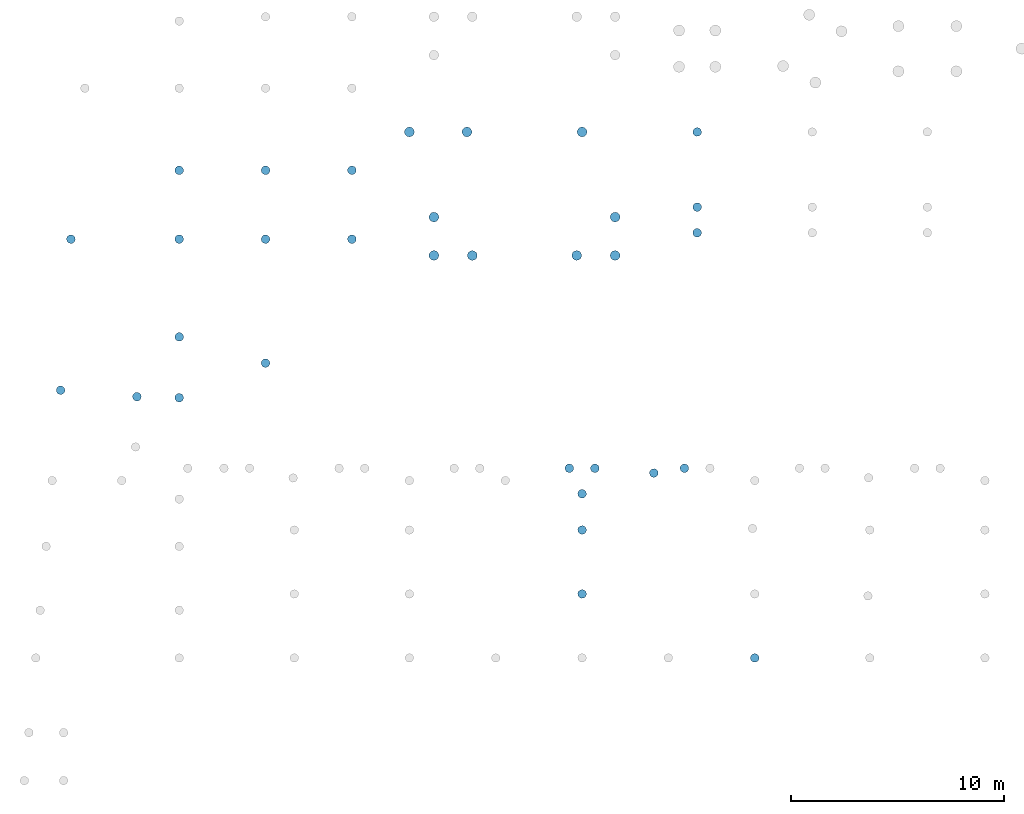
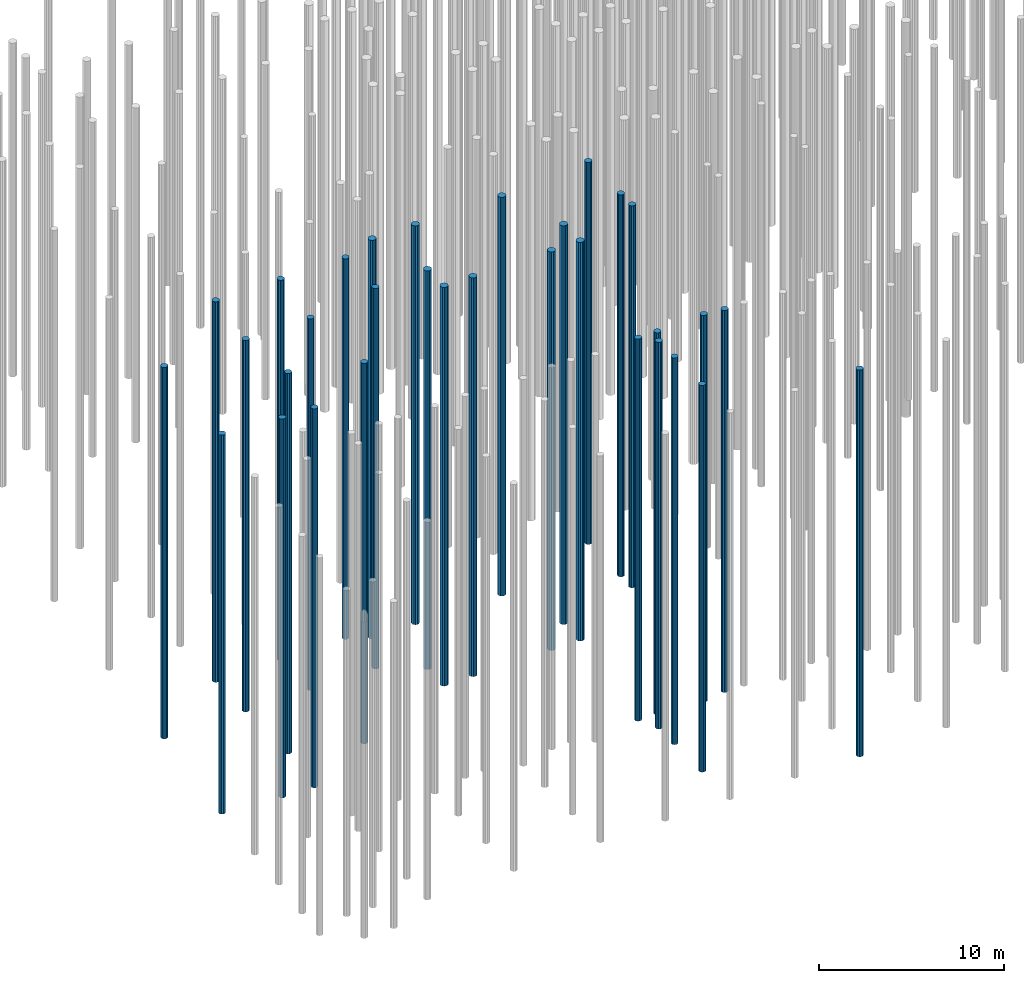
# One storey, part 2 of 20: 32 piles.
"""IFC2X3 building model written with IfcOpenShell, lengths in millimetres."""

from ifc_helpers import new_model, entity, si_unit, converted_unit, derived_unit, direction, frame, origin, place, context, subcontext, project, spatial, polyline, outline, extrude, material, element, save


model = new_model("IFC2X3")

# Units and contexts
model_context = context("Model", 3, precision=0.01, world=origin(), true_north=direction((6.12303176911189e-17, 1.0)))
body_context = subcontext(model_context, "Body", "Model", "MODEL_VIEW")
ifc_project = project(units=[si_unit("LENGTHUNIT", "METRE", prefix="MILLI"), si_unit("AREAUNIT", "SQUARE_METRE"), si_unit("VOLUMEUNIT", "CUBIC_METRE"), converted_unit("PLANEANGLEUNIT", "DEGREE", entity("IfcRatioMeasure", 0.0174532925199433), si_unit("PLANEANGLEUNIT", "RADIAN"), dimensions=[0, 0, 0, 0, 0, 0, 0]), si_unit("MASSUNIT", "GRAM", prefix="KILO"), derived_unit("MASSDENSITYUNIT", [(si_unit("MASSUNIT", "GRAM", prefix="KILO"), 1), (si_unit("LENGTHUNIT", "METRE"), -3)]), si_unit("TIMEUNIT", "SECOND"), si_unit("FREQUENCYUNIT", "HERTZ"), si_unit("THERMODYNAMICTEMPERATUREUNIT", "DEGREE_CELSIUS"), derived_unit("THERMALTRANSMITTANCEUNIT", [(si_unit("MASSUNIT", "GRAM", prefix="KILO"), 1), (si_unit("THERMODYNAMICTEMPERATUREUNIT", "KELVIN"), -1), (si_unit("TIMEUNIT", "SECOND"), -3)]), derived_unit("VOLUMETRICFLOWRATEUNIT", [(si_unit("LENGTHUNIT", "METRE"), 3), (si_unit("TIMEUNIT", "SECOND"), -1)]), si_unit("ELECTRICCURRENTUNIT", "AMPERE"), si_unit("ELECTRICVOLTAGEUNIT", "VOLT"), si_unit("POWERUNIT", "WATT"), si_unit("FORCEUNIT", "NEWTON", prefix="KILO"), si_unit("ILLUMINANCEUNIT", "LUX"), si_unit("LUMINOUSFLUXUNIT", "LUMEN"), si_unit("LUMINOUSINTENSITYUNIT", "CANDELA"), derived_unit("USERDEFINED", [(si_unit("MASSUNIT", "GRAM", prefix="KILO"), -1), (si_unit("LENGTHUNIT", "METRE"), -2), (si_unit("TIMEUNIT", "SECOND"), 3), (si_unit("LUMINOUSFLUXUNIT", "LUMEN"), 1)]), derived_unit("LINEARVELOCITYUNIT", [(si_unit("LENGTHUNIT", "METRE"), 1), (si_unit("TIMEUNIT", "SECOND"), -1)]), si_unit("PRESSUREUNIT", "PASCAL"), derived_unit("USERDEFINED", [(si_unit("LENGTHUNIT", "METRE"), -2), (si_unit("MASSUNIT", "GRAM", prefix="KILO"), 1), (si_unit("TIMEUNIT", "SECOND"), -2)])], contexts=[model_context])

# Site, building, storey
site_placement = place(None, origin())
site = spatial("IfcSite", under=ifc_project, at=site_placement, Name="Default", CompositionType="ELEMENT")
building_placement = place(site_placement, origin())
building = spatial("IfcBuilding", under=site, at=building_placement, Name="niet gebruiken", CompositionType="ELEMENT")
storey_placement = place(building_placement, frame((0.0, 0.0, -4000.0)))
storey = spatial("IfcBuildingStorey", under=building, at=storey_placement, Name="Level t.b.v. palenplan", CompositionType="ELEMENT", Elevation=-4000.0)

# Piles
ifc_material = material(Name="NLRS_f2_beton ihwg")
pile_1_placement = place(storey_placement, origin())
element("IfcPile", 1, at=pile_1_placement, inside=storey, material=ifc_material, Name="NLRS_17.12_SFO_TLB_funderingspaal grondverdringend_gen:Fundex_r410/500", ObjectType="NLRS_17.12_SFO_TLB_funderingspaal grondverdringend_gen:Fundex_r410/500", context=body_context, shape_type="SweptSolid", body=[
    extrude(outline(polyline([(-49.0597111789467, -199.043072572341), (49.0597111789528, -199.043072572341), (135.940144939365, -153.444703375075), (191.678329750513, -72.6940018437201), (203.505319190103, 24.7100194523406), (168.711692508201, 116.453273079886), (95.2682502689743, 181.518485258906), (49.0597111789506, 199.043072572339), (-49.0597111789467, 199.043072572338), (-135.940144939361, 153.444703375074), (-191.678329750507, 72.694001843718), (-203.505319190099, -24.7100194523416), (-168.711692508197, -116.453273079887), (-95.2682502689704, -181.518485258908), (-49.0597111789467, -199.043072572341)])), frame((2535.0, 12861.0, -22600.0), z_axis=(0.0, 0.0, 1.0), x_axis=(0.239315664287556, -0.970941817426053, 0.0)), (0.0, 0.0, 1.0), 25018.0),
])
pile_2_placement = place(storey_placement, origin())
element("IfcPile", 2, at=pile_2_placement, inside=storey, material=ifc_material, Name="NLRS_17.12_SFO_TLB_funderingspaal grondverdringend_gen:Fundex_r410/500", ObjectType="NLRS_17.12_SFO_TLB_funderingspaal grondverdringend_gen:Fundex_r410/500", context=body_context, shape_type="SweptSolid", body=[
    extrude(outline(polyline([(-49.0597111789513, -199.043072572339), (49.0597111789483, -199.043072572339), (135.94014493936, -153.444703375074), (191.678329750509, -72.694001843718), (203.505319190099, 24.7100194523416), (168.711692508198, 116.453273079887), (95.2682502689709, 181.518485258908), (49.0597111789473, 199.043072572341), (-49.0597111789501, 199.043072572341), (-135.940144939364, 153.444703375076), (-191.678329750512, 72.6940018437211), (-203.505319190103, -24.7100194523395), (-168.711692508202, -116.453273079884), (-95.2682502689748, -181.518485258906), (-49.0597111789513, -199.043072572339)])), frame((8100.0, 12507.3830998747, -22600.0), z_axis=(0.0, 0.0, 1.0), x_axis=(0.239315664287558, -0.970941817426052, 0.0)), (0.0, 0.0, 1.0), 25018.0),
])
pile_3_placement = place(storey_placement, origin())
element("IfcPile", 3, at=pile_3_placement, inside=storey, material=ifc_material, Name="NLRS_17.12_SFO_TLB_funderingspaal grondverdringend_gen:Fundex_r410/500", ObjectType="NLRS_17.12_SFO_TLB_funderingspaal grondverdringend_gen:Fundex_r410/500", context=body_context, shape_type="SweptSolid", body=[
    extrude(outline(polyline([(-49.0597111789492, -199.04307257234), (49.0597111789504, -199.04307257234), (135.940144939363, -153.444703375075), (191.678329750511, -72.6940018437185), (203.505319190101, 24.7100194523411), (168.7116925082, 116.453273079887), (95.268250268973, 181.518485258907), (49.0597111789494, 199.043072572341), (-49.059711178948, 199.04307257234), (-135.940144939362, 153.444703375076), (-191.678329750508, 72.6940018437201), (-203.505319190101, -24.7100194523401), (-168.711692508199, -116.453273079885), (-95.2682502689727, -181.518485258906), (-49.0597111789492, -199.04307257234)])), frame((6114.04915569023, 12552.2881039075, -22600.0), z_axis=(0.0, 0.0, 1.0), x_axis=(0.239315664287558, -0.970941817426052, 0.0)), (0.0, 0.0, 1.0), 25018.0),
])
pile_4_placement = place(storey_placement, origin())
element("IfcPile", 4, at=pile_4_placement, inside=storey, material=ifc_material, Name="NLRS_17.12_SFO_TLB_funderingspaal grondverdringend_gen:Fundex_r410/500", ObjectType="NLRS_17.12_SFO_TLB_funderingspaal grondverdringend_gen:Fundex_r410/500", context=body_context, shape_type="SweptSolid", body=[
    extrude(outline(polyline([(-49.0597111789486, -199.043072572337), (49.0597111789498, -199.043072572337), (135.940144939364, -153.44470337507), (191.678329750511, -72.6940018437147), (203.505319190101, 24.7100194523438), (168.7116925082, 116.453273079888), (95.2682502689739, 181.518485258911), (49.0597111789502, 199.043072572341), (-49.0597111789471, 199.043072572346), (-135.940144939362, 153.444703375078), (-191.678329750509, 72.6940018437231), (-203.5053191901, -24.7100194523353), (-168.711692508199, -116.453273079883), (-95.2682502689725, -181.518485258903), (-49.0597111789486, -199.043072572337)])), frame((35100.0, 300.0, -22600.0), z_axis=(0.0, 0.0, 1.0), x_axis=(0.239315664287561, -0.970941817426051, 0.0)), (0.0, 0.0, 1.0), 25528.0),
])
pile_5_placement = place(storey_placement, origin())
element("IfcPile", 5, at=pile_5_placement, inside=storey, material=ifc_material, Name="NLRS_17.12_SFO_TLB_funderingspaal grondverdringend_gen:Fundex_r410/500", ObjectType="NLRS_17.12_SFO_TLB_funderingspaal grondverdringend_gen:Fundex_r410/500", context=body_context, shape_type="SweptSolid", body=[
    extrude(outline(polyline([(-49.0597111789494, -199.043072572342), (49.0597111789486, -199.043072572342), (135.940144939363, -153.444703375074), (191.67832975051, -72.6940018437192), (203.505319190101, 24.7100194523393), (168.711692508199, 116.453273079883), (95.2682502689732, 181.518485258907), (49.0597111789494, 199.043072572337), (-49.059711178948, 199.043072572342), (-135.940144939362, 153.444703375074), (-191.678329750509, 72.694001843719), (-203.505319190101, -24.7100194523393), (-168.7116925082, -116.453273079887), (-95.2682502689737, -181.518485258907), (-49.0597111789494, -199.043072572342)])), frame((27000.0, 3300.0, -22600.0), z_axis=(0.0, 0.0, 1.0), x_axis=(0.239315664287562, -0.970941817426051, 0.0)), (0.0, 0.0, 1.0), 25528.0),
])
pile_6_placement = place(storey_placement, origin())
element("IfcPile", 6, at=pile_6_placement, inside=storey, material=ifc_material, Name="NLRS_17.12_SFO_TLB_funderingspaal grondverdringend_gen:Fundex_r410/500", ObjectType="NLRS_17.12_SFO_TLB_funderingspaal grondverdringend_gen:Fundex_r410/500", context=body_context, shape_type="SweptSolid", body=[
    extrude(outline(polyline([(-49.0597111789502, -199.043072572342), (49.0597111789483, -199.043072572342), (135.940144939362, -153.444703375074), (191.678329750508, -72.6940018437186), (203.505319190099, 24.71001945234), (168.711692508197, 116.453273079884), (95.2682502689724, 181.518485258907), (49.0597111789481, 199.043072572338), (-49.0597111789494, 199.043072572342), (-135.940144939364, 153.444703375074), (-191.678329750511, 72.6940018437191), (-203.505319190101, -24.7100194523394), (-168.711692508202, -116.453273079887), (-95.2682502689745, -181.518485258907), (-49.0597111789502, -199.043072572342)])), frame((27000.0, 6300.0, -22600.0), z_axis=(0.0, 0.0, 1.0), x_axis=(0.239315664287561, -0.970941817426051, 0.0)), (0.0, 0.0, 1.0), 25528.0),
])
pile_7_placement = place(storey_placement, origin())
element("IfcPile", 7, at=pile_7_placement, inside=storey, material=ifc_material, Name="NLRS_17.12_SFO_TLB_funderingspaal grondverdringend_gen:Fundex_r410/500", ObjectType="NLRS_17.12_SFO_TLB_funderingspaal grondverdringend_gen:Fundex_r410/500", context=body_context, shape_type="SweptSolid", body=[
    extrude(outline(polyline([(-49.0597111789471, -199.043072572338), (49.0597111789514, -199.043072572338), (135.940144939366, -153.44470337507), (191.678329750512, -72.6940018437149), (203.505319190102, 24.7100194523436), (168.7116925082, 116.453273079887), (95.2682502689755, 181.518485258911), (49.0597111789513, 199.043072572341), (-49.0597111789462, 199.043072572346), (-135.94014493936, 153.444703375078), (-191.678329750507, 72.6940018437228), (-203.505319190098, -24.7100194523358), (-168.711692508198, -116.453273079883), (-95.2682502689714, -181.518485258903), (-49.0597111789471, -199.043072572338)])), frame((27000.0, 8000.0, -22600.0), z_axis=(0.0, 0.0, 1.0), x_axis=(0.239315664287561, -0.970941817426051, 0.0)), (0.0, 0.0, 1.0), 25528.0),
])
pile_8_placement = place(storey_placement, origin())
element("IfcPile", 8, at=pile_8_placement, inside=storey, material=ifc_material, Name="NLRS_17.12_SFO_TLB_funderingspaal grondverdringend_gen:Fundex_r460/560", ObjectType="NLRS_17.12_SFO_TLB_funderingspaal grondverdringend_gen:Fundex_r460/560", context=body_context, shape_type="SweptSolid", body=[
    extrude(outline(polyline([(-25.7518295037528, -228.553808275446), (25.7518295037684, -228.553808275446), (122.367377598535, -194.746565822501), (194.746565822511, -122.367377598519), (228.553808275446, -25.7518295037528), (217.09316597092, 75.9641842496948), (162.634559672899, 162.634559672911), (75.9641842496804, 217.093165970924), (25.7518295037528, 228.553808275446), (-25.7518295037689, 228.553808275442), (-122.367377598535, 194.746565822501), (-194.746565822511, 122.367377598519), (-228.553808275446, 25.7518295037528), (-217.093165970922, -75.9641842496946), (-162.634559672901, -162.634559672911), (-75.9641842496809, -217.093165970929), (-25.7518295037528, -228.553808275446)])), frame((21850.0, 19178.3220967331, -24100.0), z_axis=(0.0, 0.0, 1.0), x_axis=(0.111964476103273, -0.993712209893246, 0.0)), (0.0, 0.0, 1.0), 26320.0),
])
pile_9_placement = place(storey_placement, origin())
element("IfcPile", 9, at=pile_9_placement, inside=storey, material=ifc_material, Name="NLRS_17.12_SFO_TLB_funderingspaal grondverdringend_gen:Fundex_r460/560", ObjectType="NLRS_17.12_SFO_TLB_funderingspaal grondverdringend_gen:Fundex_r460/560", context=body_context, shape_type="SweptSolid", body=[
    extrude(outline(polyline([(-25.7518295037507, -228.553808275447), (25.7518295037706, -228.553808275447), (122.367377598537, -194.746565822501), (194.746565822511, -122.367377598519), (228.553808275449, -25.751829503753), (217.093165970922, 75.9641842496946), (162.634559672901, 162.634559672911), (75.9641842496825, 217.093165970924), (25.751829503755, 228.553808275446), (-25.7518295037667, 228.553808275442), (-122.367377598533, 194.7465658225), (-194.746565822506, 122.367377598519), (-228.553808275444, 25.7518295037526), (-217.09316597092, -75.9641842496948), (-162.634559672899, -162.634559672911), (-75.9641842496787, -217.093165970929), (-25.7518295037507, -228.553808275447)])), frame((20050.0, 19181.0, -24100.0), z_axis=(0.0, 0.0, 1.0), x_axis=(0.111964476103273, -0.993712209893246, 0.0)), (0.0, 0.0, 1.0), 26320.0),
])
pile_10_placement = place(storey_placement, origin())
element("IfcPile", 10, at=pile_10_placement, inside=storey, material=ifc_material, Name="NLRS_17.12_SFO_TLB_funderingspaal grondverdringend_gen:Fundex_r460/560", ObjectType="NLRS_17.12_SFO_TLB_funderingspaal grondverdringend_gen:Fundex_r460/560", context=body_context, shape_type="SweptSolid", body=[
    extrude(outline(polyline([(-25.7518295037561, -228.553808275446), (25.7518295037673, -228.553808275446), (122.367377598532, -194.746565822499), (194.746565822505, -122.367377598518), (228.553808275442, -25.7518295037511), (217.093165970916, 75.9641842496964), (162.634559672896, 162.634559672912), (75.9641842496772, 217.093165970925), (25.7518295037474, 228.553808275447), (-25.7518295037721, 228.553808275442), (-122.36737759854, 194.7465658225), (-194.746565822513, 122.367377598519), (-228.553808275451, 25.7518295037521), (-217.093165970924, -75.9641842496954), (-162.634559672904, -162.634559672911), (-75.9641842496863, -217.093165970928), (-25.7518295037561, -228.553808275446)])), frame((20050.0, 20981.0, -24100.0), z_axis=(0.0, 0.0, 1.0), x_axis=(0.111964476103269, -0.993712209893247, 0.0)), (0.0, 0.0, 1.0), 26320.0),
])
pile_11_placement = place(storey_placement, origin())
element("IfcPile", 11, at=pile_11_placement, inside=storey, material=ifc_material, Name="NLRS_17.12_SFO_TLB_funderingspaal grondverdringend_gen:Fundex_r460/560", ObjectType="NLRS_17.12_SFO_TLB_funderingspaal grondverdringend_gen:Fundex_r460/560", context=body_context, shape_type="SweptSolid", body=[
    extrude(outline(polyline([(-25.7518295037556, -228.553808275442), (25.7518295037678, -228.553808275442), (122.367377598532, -194.746565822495), (194.746565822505, -122.367377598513), (228.553808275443, -25.7518295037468), (217.093165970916, 75.9641842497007), (162.634559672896, 162.634559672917), (75.9641842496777, 217.093165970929), (25.7518295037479, 228.553808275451), (-25.7518295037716, 228.553808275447), (-122.36737759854, 194.746565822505), (-194.746565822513, 122.367377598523), (-228.55380827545, 25.7518295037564), (-217.093165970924, -75.9641842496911), (-162.634559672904, -162.634559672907), (-75.9641842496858, -217.093165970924), (-25.7518295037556, -228.553808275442)])), frame((28550.0, 20981.0, -24100.0), z_axis=(0.0, 0.0, 1.0), x_axis=(0.111964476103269, -0.993712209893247, 0.0)), (0.0, 0.0, 1.0), 26320.0),
])
pile_12_placement = place(storey_placement, origin())
element("IfcPile", 12, at=pile_12_placement, inside=storey, material=ifc_material, Name="NLRS_17.12_SFO_TLB_funderingspaal grondverdringend_gen:Fundex_r410/500", ObjectType="NLRS_17.12_SFO_TLB_funderingspaal grondverdringend_gen:Fundex_r410/500", context=body_context, shape_type="SweptSolid", body=[
    extrude(outline(polyline([(-49.0597111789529, -199.043072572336), (49.0597111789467, -199.043072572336), (135.940144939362, -153.444703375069), (191.678329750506, -72.6940018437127), (203.505319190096, 24.7100194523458), (168.711692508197, 116.453273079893), (95.2682502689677, 181.518485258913), (49.0597111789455, 199.043072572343), (-49.0597111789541, 199.043072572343), (-135.940144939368, 153.444703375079), (-191.678329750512, 72.6940018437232), (-203.505319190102, -24.7100194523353), (-168.711692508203, -116.453273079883), (-95.268250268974, -181.518485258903), (-49.0597111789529, -199.043072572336)])), frame((32400.0, 20246.0, -22600.0), z_axis=(0.0, 0.0, 1.0), x_axis=(0.239315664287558, -0.970941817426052, 0.0)), (0.0, 0.0, 1.0), 25220.0),
])
pile_13_placement = place(storey_placement, origin())
element("IfcPile", 13, at=pile_13_placement, inside=storey, material=ifc_material, Name="NLRS_17.12_SFO_TLB_funderingspaal grondverdringend_gen:Fundex_r410/500", ObjectType="NLRS_17.12_SFO_TLB_funderingspaal grondverdringend_gen:Fundex_r410/500", context=body_context, shape_type="SweptSolid", body=[
    extrude(outline(polyline([(-49.0597111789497, -199.043072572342), (49.0597111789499, -199.043072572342), (135.94014493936, -153.444703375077), (191.678329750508, -72.6940018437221), (203.505319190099, 24.7100194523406), (168.711692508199, 116.453273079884), (95.2682502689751, 181.518485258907), (49.0597111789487, 199.043072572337), (-49.0597111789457, 199.043072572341), (-135.94014493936, 153.444703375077), (-191.678329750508, 72.6940018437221), (-203.505319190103, -24.7100194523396), (-168.711692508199, -116.453273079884), (-95.2682502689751, -181.518485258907), (-49.0597111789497, -199.043072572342)])), frame((32400.0, 21446.0, -22600.0), z_axis=(0.0, 0.0, 1.0), x_axis=(-0.970941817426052, -0.239315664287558, 0.0)), (0.0, 0.0, 1.0), 25220.0),
])
pile_14_placement = place(storey_placement, origin())
element("IfcPile", 14, at=pile_14_placement, inside=storey, material=ifc_material, Name="NLRS_17.12_SFO_TLB_funderingspaal grondverdringend_gen:Fundex_r410/500", ObjectType="NLRS_17.12_SFO_TLB_funderingspaal grondverdringend_gen:Fundex_r410/500", context=body_context, shape_type="SweptSolid", body=[
    extrude(outline(polyline([(-49.0597111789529, -199.043072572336), (49.0597111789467, -199.043072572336), (135.940144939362, -153.444703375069), (191.678329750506, -72.6940018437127), (203.505319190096, 24.7100194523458), (168.711692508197, 116.453273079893), (95.2682502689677, 181.518485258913), (49.0597111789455, 199.043072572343), (-49.0597111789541, 199.043072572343), (-135.940144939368, 153.444703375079), (-191.678329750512, 72.6940018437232), (-203.505319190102, -24.7100194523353), (-168.711692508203, -116.453273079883), (-95.268250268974, -181.518485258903), (-49.0597111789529, -199.043072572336)])), frame((32400.0, 24976.0, -22600.0), z_axis=(0.0, 0.0, 1.0), x_axis=(0.239315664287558, -0.970941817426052, 0.0)), (0.0, 0.0, 1.0), 25220.0),
])
pile_15_placement = place(storey_placement, origin())
element("IfcPile", 15, at=pile_15_placement, inside=storey, material=ifc_material, Name="NLRS_17.12_SFO_TLB_funderingspaal grondverdringend_gen:Fundex_r410/500", ObjectType="NLRS_17.12_SFO_TLB_funderingspaal grondverdringend_gen:Fundex_r410/500", context=body_context, shape_type="SweptSolid", body=[
    extrude(outline(polyline([(-49.0597111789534, -199.043072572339), (49.0597111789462, -199.043072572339), (135.94014493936, -153.444703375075), (191.678329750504, -72.694001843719), (203.505319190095, 24.7100194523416), (168.711692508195, 116.453273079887), (95.2682502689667, 181.518485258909), (49.059711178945, 199.043072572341), (-49.0597111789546, 199.043072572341), (-135.940144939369, 153.444703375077), (-191.678329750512, 72.6940018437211), (-203.505319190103, -24.7100194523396), (-168.711692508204, -116.453273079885), (-95.2682502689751, -181.518485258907), (-49.0597111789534, -199.043072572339)])), frame((16200.0, 19946.0, -22100.0), z_axis=(0.0, 0.0, 1.0), x_axis=(0.239315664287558, -0.970941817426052, 0.0)), (0.0, 0.0, 1.0), 25118.0),
])
pile_16_placement = place(storey_placement, origin())
element("IfcPile", 16, at=pile_16_placement, inside=storey, material=ifc_material, Name="NLRS_17.12_SFO_TLB_funderingspaal grondverdringend_gen:Fundex_r410/500", ObjectType="NLRS_17.12_SFO_TLB_funderingspaal grondverdringend_gen:Fundex_r410/500", context=body_context, shape_type="SweptSolid", body=[
    extrude(outline(polyline([(-49.0597111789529, -199.043072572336), (49.0597111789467, -199.043072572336), (135.940144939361, -153.444703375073), (191.678329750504, -72.6940018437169), (203.505319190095, 24.7100194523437), (168.711692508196, 116.453273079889), (95.2682502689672, 181.518485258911), (49.0597111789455, 199.043072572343), (-49.0597111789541, 199.043072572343), (-135.940144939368, 153.444703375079), (-191.678329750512, 72.6940018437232), (-203.505319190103, -24.7100194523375), (-168.711692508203, -116.453273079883), (-95.2682502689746, -181.518485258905), (-49.0597111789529, -199.043072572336)])), frame((16200.0, 23176.0, -22100.0), z_axis=(0.0, 0.0, 1.0), x_axis=(0.239315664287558, -0.970941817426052, 0.0)), (0.0, 0.0, 1.0), 25118.0),
])
pile_17_placement = place(storey_placement, origin())
element("IfcPile", 17, at=pile_17_placement, inside=storey, material=ifc_material, Name="NLRS_17.12_SFO_TLB_funderingspaal grondverdringend_gen:Fundex_r410/500", ObjectType="NLRS_17.12_SFO_TLB_funderingspaal grondverdringend_gen:Fundex_r410/500", context=body_context, shape_type="SweptSolid", body=[
    extrude(outline(polyline([(-49.0597111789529, -199.043072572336), (49.0597111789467, -199.043072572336), (135.940144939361, -153.444703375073), (191.678329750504, -72.6940018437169), (203.505319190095, 24.7100194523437), (168.711692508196, 116.453273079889), (95.2682502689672, 181.518485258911), (49.0597111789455, 199.043072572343), (-49.0597111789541, 199.043072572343), (-135.940144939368, 153.444703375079), (-191.678329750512, 72.6940018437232), (-203.505319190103, -24.7100194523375), (-168.711692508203, -116.453273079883), (-95.2682502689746, -181.518485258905), (-49.0597111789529, -199.043072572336)])), frame((12150.0, 19946.0, -22100.0), z_axis=(0.0, 0.0, 1.0), x_axis=(0.239315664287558, -0.970941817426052, 0.0)), (0.0, 0.0, 1.0), 24518.0),
])
pile_18_placement = place(storey_placement, origin())
element("IfcPile", 18, at=pile_18_placement, inside=storey, material=ifc_material, Name="NLRS_17.12_SFO_TLB_funderingspaal grondverdringend_gen:Fundex_r410/500", ObjectType="NLRS_17.12_SFO_TLB_funderingspaal grondverdringend_gen:Fundex_r410/500", context=body_context, shape_type="SweptSolid", body=[
    extrude(outline(polyline([(-49.0597111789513, -199.043072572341), (49.0597111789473, -199.043072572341), (135.940144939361, -153.444703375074), (191.678329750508, -72.6940018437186), (203.505319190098, 24.7100194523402), (168.711692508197, 116.453273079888), (95.2682502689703, 181.518485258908), (49.0597111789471, 199.043072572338), (-49.0597111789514, 199.043072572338), (-135.940144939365, 153.444703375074), (-191.678329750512, 72.6940018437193), (-203.505319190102, -24.7100194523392), (-168.711692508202, -116.453273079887), (-95.2682502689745, -181.518485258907), (-49.0597111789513, -199.043072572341)])), frame((26400.0, 9196.0, -22600.0), z_axis=(0.0, 0.0, 1.0), x_axis=(0.239315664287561, -0.970941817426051, 0.0)), (0.0, 0.0, 1.0), 25220.0),
])
pile_19_placement = place(storey_placement, origin())
element("IfcPile", 19, at=pile_19_placement, inside=storey, material=ifc_material, Name="NLRS_17.12_SFO_TLB_funderingspaal grondverdringend_gen:Fundex_r410/500", ObjectType="NLRS_17.12_SFO_TLB_funderingspaal grondverdringend_gen:Fundex_r410/500", context=body_context, shape_type="SweptSolid", body=[
    extrude(outline(polyline([(-49.0597111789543, -199.043072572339), (49.0597111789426, -199.043072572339), (135.940144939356, -153.444703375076), (191.678329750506, -72.6940018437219), (203.505319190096, 24.7100194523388), (168.711692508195, 116.453273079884), (95.2682502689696, 181.518485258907), (49.0597111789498, 199.043072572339), (-49.059711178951, 199.043072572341), (-135.940144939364, 153.444703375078), (-191.678329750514, 72.694001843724), (-203.505319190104, -24.7100194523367), (-168.711692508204, -116.453273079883), (-95.2682502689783, -181.518485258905), (-49.0597111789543, -199.043072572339)])), frame((27600.0, 9196.0, -22600.0), z_axis=(0.0, 0.0, 1.0), x_axis=(-0.970941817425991, -0.239315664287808, 0.0)), (0.0, 0.0, 1.0), 25220.0),
])
pile_20_placement = place(storey_placement, origin())
element("IfcPile", 20, at=pile_20_placement, inside=storey, material=ifc_material, Name="NLRS_17.12_SFO_TLB_funderingspaal grondverdringend_gen:Fundex_r410/500", ObjectType="NLRS_17.12_SFO_TLB_funderingspaal grondverdringend_gen:Fundex_r410/500", context=body_context, shape_type="SweptSolid", body=[
    extrude(outline(polyline([(-49.0597111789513, -199.043072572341), (49.0597111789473, -199.043072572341), (135.940144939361, -153.444703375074), (191.678329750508, -72.6940018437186), (203.505319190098, 24.7100194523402), (168.711692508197, 116.453273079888), (95.2682502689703, 181.518485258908), (49.0597111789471, 199.043072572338), (-49.0597111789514, 199.043072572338), (-135.940144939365, 153.444703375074), (-191.678329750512, 72.6940018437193), (-203.505319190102, -24.7100194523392), (-168.711692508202, -116.453273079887), (-95.2682502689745, -181.518485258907), (-49.0597111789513, -199.043072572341)])), frame((31800.0, 9196.0, -22600.0), z_axis=(0.0, 0.0, 1.0), x_axis=(0.239315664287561, -0.970941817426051, 0.0)), (0.0, 0.0, 1.0), 25220.0),
])
pile_21_placement = place(storey_placement, origin())
element("IfcPile", 21, at=pile_21_placement, inside=storey, material=ifc_material, Name="NLRS_17.12_SFO_TLB_funderingspaal grondverdringend_gen:Fundex_r410/500", ObjectType="NLRS_17.12_SFO_TLB_funderingspaal grondverdringend_gen:Fundex_r410/500", context=body_context, shape_type="SweptSolid", body=[
    extrude(outline(polyline([(-49.0597111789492, -199.043072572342), (49.0597111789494, -199.043072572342), (135.940144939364, -153.444703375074), (191.67832975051, -72.6940018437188), (203.5053191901, 24.7100194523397), (168.711692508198, 116.453273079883), (95.2682502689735, 181.518485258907), (49.0597111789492, 199.043072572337), (-49.0597111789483, 199.043072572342), (-135.940144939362, 153.444703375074), (-191.67832975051, 72.6940018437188), (-203.5053191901, -24.7100194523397), (-168.7116925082, -116.453273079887), (-95.2682502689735, -181.518485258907), (-49.0597111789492, -199.043072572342)])), frame((30367.5212569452, 8972.0810476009, -22600.0), z_axis=(0.0, 0.0, 1.0), x_axis=(0.239315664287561, -0.970941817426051, 0.0)), (0.0, 0.0, 1.0), 25528.0),
])
pile_22_placement = place(storey_placement, origin())
element("IfcPile", 22, at=pile_22_placement, inside=storey, material=ifc_material, Name="NLRS_17.12_SFO_TLB_funderingspaal grondverdringend_gen:Fundex_r410/500", ObjectType="NLRS_17.12_SFO_TLB_funderingspaal grondverdringend_gen:Fundex_r410/500", context=body_context, shape_type="SweptSolid", body=[
    extrude(outline(polyline([(-49.0597111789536, -199.04307257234), (49.0597111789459, -199.04307257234), (135.94014493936, -153.444703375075), (191.678329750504, -72.694001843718), (203.505319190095, 24.7100194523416), (168.711692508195, 116.453273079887), (95.2682502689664, 181.518485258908), (49.059711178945, 199.043072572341), (-49.0597111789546, 199.043072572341), (-135.940144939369, 153.444703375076), (-191.678329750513, 72.6940018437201), (-203.505319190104, -24.7100194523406), (-168.711692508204, -116.453273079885), (-95.2682502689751, -181.518485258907), (-49.0597111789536, -199.04307257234)])), frame((8100.0, 19946.0, -22100.0), z_axis=(0.0, 0.0, 1.0), x_axis=(0.239315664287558, -0.970941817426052, 0.0)), (0.0, 0.0, 1.0), 24518.0),
])
pile_23_placement = place(storey_placement, origin())
element("IfcPile", 23, at=pile_23_placement, inside=storey, material=ifc_material, Name="NLRS_17.12_SFO_TLB_funderingspaal grondverdringend_gen:Fundex_r410/500", ObjectType="NLRS_17.12_SFO_TLB_funderingspaal grondverdringend_gen:Fundex_r410/500", context=body_context, shape_type="SweptSolid", body=[
    extrude(outline(polyline([(-49.0597111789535, -199.043072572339), (49.0597111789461, -199.043072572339), (135.94014493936, -153.444703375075), (191.678329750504, -72.6940018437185), (203.505319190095, 24.7100194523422), (168.711692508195, 116.453273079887), (95.2682502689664, 181.518485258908), (49.0597111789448, 199.04307257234), (-49.0597111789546, 199.043072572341), (-135.940144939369, 153.444703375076), (-191.678329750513, 72.6940018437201), (-203.505319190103, -24.7100194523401), (-168.711692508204, -116.453273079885), (-95.2682502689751, -181.518485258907), (-49.0597111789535, -199.043072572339)])), frame((3020.0, 19946.0, -22100.0), z_axis=(0.0, 0.0, 1.0), x_axis=(0.239315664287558, -0.970941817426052, 0.0)), (0.0, 0.0, 1.0), 24518.0),
])
pile_24_placement = place(storey_placement, origin())
element("IfcPile", 24, at=pile_24_placement, inside=storey, material=ifc_material, Name="NLRS_17.12_SFO_TLB_funderingspaal grondverdringend_gen:Fundex_r410/500", ObjectType="NLRS_17.12_SFO_TLB_funderingspaal grondverdringend_gen:Fundex_r410/500", context=body_context, shape_type="SweptSolid", body=[
    extrude(outline(polyline([(-49.0597111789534, -199.043072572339), (49.0597111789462, -199.043072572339), (135.94014493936, -153.444703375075), (191.678329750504, -72.694001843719), (203.505319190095, 24.7100194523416), (168.711692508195, 116.453273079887), (95.2682502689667, 181.518485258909), (49.059711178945, 199.043072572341), (-49.0597111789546, 199.043072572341), (-135.940144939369, 153.444703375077), (-191.678329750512, 72.6940018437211), (-203.505319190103, -24.7100194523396), (-168.711692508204, -116.453273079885), (-95.2682502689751, -181.518485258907), (-49.0597111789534, -199.043072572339)])), frame((12150.0, 23176.0, -22100.0), z_axis=(0.0, 0.0, 1.0), x_axis=(0.239315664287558, -0.970941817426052, 0.0)), (0.0, 0.0, 1.0), 25118.0),
])
pile_25_placement = place(storey_placement, origin())
element("IfcPile", 25, at=pile_25_placement, inside=storey, material=ifc_material, Name="NLRS_17.12_SFO_TLB_funderingspaal grondverdringend_gen:Fundex_r410/500", ObjectType="NLRS_17.12_SFO_TLB_funderingspaal grondverdringend_gen:Fundex_r410/500", context=body_context, shape_type="SweptSolid", body=[
    extrude(outline(polyline([(-49.0597111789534, -199.043072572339), (49.0597111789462, -199.043072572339), (135.94014493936, -153.444703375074), (191.678329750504, -72.6940018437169), (203.505319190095, 24.7100194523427), (168.711692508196, 116.453273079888), (95.2682502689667, 181.518485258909), (49.0597111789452, 199.043072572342), (-49.0597111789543, 199.043072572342), (-135.940144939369, 153.444703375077), (-191.678329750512, 72.6940018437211), (-203.505319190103, -24.7100194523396), (-168.711692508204, -116.453273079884), (-95.2682502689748, -181.518485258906), (-49.0597111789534, -199.043072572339)])), frame((8100.0, 23176.0, -22100.0), z_axis=(0.0, 0.0, 1.0), x_axis=(0.239315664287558, -0.970941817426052, 0.0)), (0.0, 0.0, 1.0), 25118.0),
])
pile_26_placement = place(storey_placement, origin())
element("IfcPile", 26, at=pile_26_placement, inside=storey, material=ifc_material, Name="NLRS_17.12_SFO_TLB_funderingspaal grondverdringend_gen:Fundex_r460/560", ObjectType="NLRS_17.12_SFO_TLB_funderingspaal grondverdringend_gen:Fundex_r460/560", context=body_context, shape_type="SweptSolid", body=[
    extrude(outline(polyline([(-25.7518295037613, -228.553808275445), (25.7518295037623, -228.553808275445), (122.367377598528, -194.746565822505), (194.746565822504, -122.367377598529), (228.553808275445, -25.7518295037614), (217.093165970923, 75.9641842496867), (162.634559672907, 162.634559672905), (75.9641842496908, 217.093165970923), (25.7518295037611, 228.553808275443), (-25.751829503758, 228.553808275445), (-122.367377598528, 194.746565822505), (-194.746565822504, 122.367377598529), (-228.553808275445, 25.7518295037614), (-217.093165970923, -75.9641842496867), (-162.634559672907, -162.634559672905), (-75.9641842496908, -217.093165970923), (-25.7518295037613, -228.553808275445)])), frame((18900.0, 24976.0, -24100.0), z_axis=(0.0, 0.0, 1.0), x_axis=(0.11196447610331, -0.993712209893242, 0.0)), (0.0, 0.0, 1.0), 26320.0),
])
pile_27_placement = place(storey_placement, origin())
element("IfcPile", 27, at=pile_27_placement, inside=storey, material=ifc_material, Name="NLRS_17.12_SFO_TLB_funderingspaal grondverdringend_gen:Fundex_r410/500", ObjectType="NLRS_17.12_SFO_TLB_funderingspaal grondverdringend_gen:Fundex_r410/500", context=body_context, shape_type="SweptSolid", body=[
    extrude(outline(polyline([(-49.0597111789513, -199.043072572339), (49.0597111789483, -199.043072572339), (135.94014493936, -153.444703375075), (191.678329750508, -72.6940018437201), (203.505319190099, 24.7100194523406), (168.711692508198, 116.453273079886), (95.2682502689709, 181.518485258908), (49.0597111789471, 199.04307257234), (-49.0597111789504, 199.04307257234), (-135.940144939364, 153.444703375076), (-191.67832975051, 72.6940018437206), (-203.505319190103, -24.7100194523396), (-168.711692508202, -116.453273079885), (-95.2682502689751, -181.518485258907), (-49.0597111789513, -199.043072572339)])), frame((12150.0, 14131.0, -22100.0), z_axis=(0.0, 0.0, 1.0), x_axis=(0.239315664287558, -0.970941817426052, 0.0)), (0.0, 0.0, 1.0), 25118.0),
])
pile_28_placement = place(storey_placement, origin())
element("IfcPile", 28, at=pile_28_placement, inside=storey, material=ifc_material, Name="NLRS_17.12_SFO_TLB_funderingspaal grondverdringend_gen:Fundex_r410/500", ObjectType="NLRS_17.12_SFO_TLB_funderingspaal grondverdringend_gen:Fundex_r410/500", context=body_context, shape_type="SweptSolid", body=[
    extrude(outline(polyline([(-49.0597111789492, -199.04307257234), (49.0597111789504, -199.04307257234), (135.940144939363, -153.444703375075), (191.678329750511, -72.6940018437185), (203.505319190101, 24.7100194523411), (168.7116925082, 116.453273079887), (95.268250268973, 181.518485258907), (49.0597111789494, 199.043072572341), (-49.059711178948, 199.04307257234), (-135.940144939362, 153.444703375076), (-191.67832975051, 72.6940018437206), (-203.505319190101, -24.7100194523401), (-168.711692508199, -116.453273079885), (-95.2682502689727, -181.518485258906), (-49.0597111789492, -199.04307257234)])), frame((8100.0, 15361.0, -22100.0), z_axis=(0.0, 0.0, 1.0), x_axis=(0.239315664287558, -0.970941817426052, 0.0)), (0.0, 0.0, 1.0), 25118.0),
])
pile_29_placement = place(storey_placement, origin())
element("IfcPile", 29, at=pile_29_placement, inside=storey, material=ifc_material, Name="NLRS_17.12_SFO_TLB_funderingspaal grondverdringend_gen:Fundex_r460/560", ObjectType="NLRS_17.12_SFO_TLB_funderingspaal grondverdringend_gen:Fundex_r460/560", context=body_context, shape_type="SweptSolid", body=[
    extrude(outline(polyline([(-25.7518295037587, -228.55380827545), (25.7518295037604, -228.55380827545), (122.367377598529, -194.746565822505), (194.746565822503, -122.367377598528), (228.553808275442, -25.7518295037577), (217.093165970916, 75.9641842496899), (162.634559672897, 162.634559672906), (75.9641842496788, 217.09316597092), (25.7518295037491, 228.553808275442), (-25.7518295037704, 228.553808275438), (-122.367377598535, 194.746565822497), (-194.746565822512, 122.367377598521), (-228.553808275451, 25.7518295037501), (-217.093165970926, -75.9641842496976), (-162.634559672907, -162.634559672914), (-75.9641842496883, -217.093165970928), (-25.7518295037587, -228.55380827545)])), frame((21600.0, 24976.0, -24100.0), z_axis=(0.0, 0.0, 1.0), x_axis=(0.111964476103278, -0.993712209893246, 0.0)), (0.0, 0.0, 1.0), 26320.0),
])
pile_30_placement = place(storey_placement, origin())
element("IfcPile", 30, at=pile_30_placement, inside=storey, material=ifc_material, Name="NLRS_17.12_SFO_TLB_funderingspaal grondverdringend_gen:Fundex_r460/560", ObjectType="NLRS_17.12_SFO_TLB_funderingspaal grondverdringend_gen:Fundex_r460/560", context=body_context, shape_type="SweptSolid", body=[
    extrude(outline(polyline([(-25.7518295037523, -228.553808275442), (25.7518295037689, -228.553808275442), (122.367377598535, -194.746565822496), (194.746565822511, -122.367377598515), (228.553808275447, -25.7518295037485), (217.093165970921, 75.9641842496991), (162.634559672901, 162.634559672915), (75.9641842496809, 217.093165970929), (25.7518295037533, 228.553808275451), (-25.7518295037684, 228.553808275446), (-122.367377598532, 194.746565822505), (-194.746565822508, 122.367377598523), (-228.553808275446, 25.7518295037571), (-217.09316597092, -75.9641842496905), (-162.6345596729, -162.634559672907), (-75.9641842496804, -217.093165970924), (-25.7518295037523, -228.553808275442)])), frame((28550.0, 19181.0, -24100.0), z_axis=(0.0, 0.0, 1.0), x_axis=(0.111964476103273, -0.993712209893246, 0.0)), (0.0, 0.0, 1.0), 26320.0),
])
pile_31_placement = place(storey_placement, origin())
element("IfcPile", 31, at=pile_31_placement, inside=storey, material=ifc_material, Name="NLRS_17.12_SFO_TLB_funderingspaal grondverdringend_gen:Fundex_r460/560", ObjectType="NLRS_17.12_SFO_TLB_funderingspaal grondverdringend_gen:Fundex_r460/560", context=body_context, shape_type="SweptSolid", body=[
    extrude(outline(polyline([(-25.7518295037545, -228.553808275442), (25.7518295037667, -228.553808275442), (122.367377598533, -194.746565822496), (194.746565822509, -122.367377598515), (228.553808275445, -25.7518295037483), (217.093165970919, 75.9641842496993), (162.634559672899, 162.634559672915), (75.9641842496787, 217.093165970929), (25.7518295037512, 228.553808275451), (-25.7518295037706, 228.553808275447), (-122.367377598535, 194.746565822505), (-194.74656582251, 122.367377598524), (-228.553808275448, 25.7518295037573), (-217.093165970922, -75.9641842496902), (-162.634559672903, -162.634559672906), (-75.9641842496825, -217.093165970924), (-25.7518295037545, -228.553808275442)])), frame((26750.0, 19181.0, -24100.0), z_axis=(0.0, 0.0, 1.0), x_axis=(0.111964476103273, -0.993712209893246, 0.0)), (0.0, 0.0, 1.0), 26320.0),
])
pile_32_placement = place(storey_placement, origin())
element("IfcPile", 32, at=pile_32_placement, inside=storey, material=ifc_material, Name="NLRS_17.12_SFO_TLB_funderingspaal grondverdringend_gen:Fundex_r460/560", ObjectType="NLRS_17.12_SFO_TLB_funderingspaal grondverdringend_gen:Fundex_r460/560", context=body_context, shape_type="SweptSolid", body=[
    extrude(outline(polyline([(-25.7518295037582, -228.553808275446), (25.7518295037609, -228.553808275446), (122.36737759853, -194.746565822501), (194.746565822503, -122.367377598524), (228.553808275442, -25.7518295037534), (217.093165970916, 75.9641842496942), (162.634559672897, 162.634559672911), (75.9641842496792, 217.093165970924), (25.7518295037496, 228.553808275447), (-25.75182950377, 228.553808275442), (-122.367377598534, 194.746565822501), (-194.746565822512, 122.367377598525), (-228.553808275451, 25.7518295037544), (-217.093165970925, -75.9641842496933), (-162.634559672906, -162.63455967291), (-75.9641842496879, -217.093165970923), (-25.7518295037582, -228.553808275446)])), frame((27000.0, 24976.0, -24100.0), z_axis=(0.0, 0.0, 1.0), x_axis=(0.111964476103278, -0.993712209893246, 0.0)), (0.0, 0.0, 1.0), 26320.0),
])

save(model, "model.ifc")
